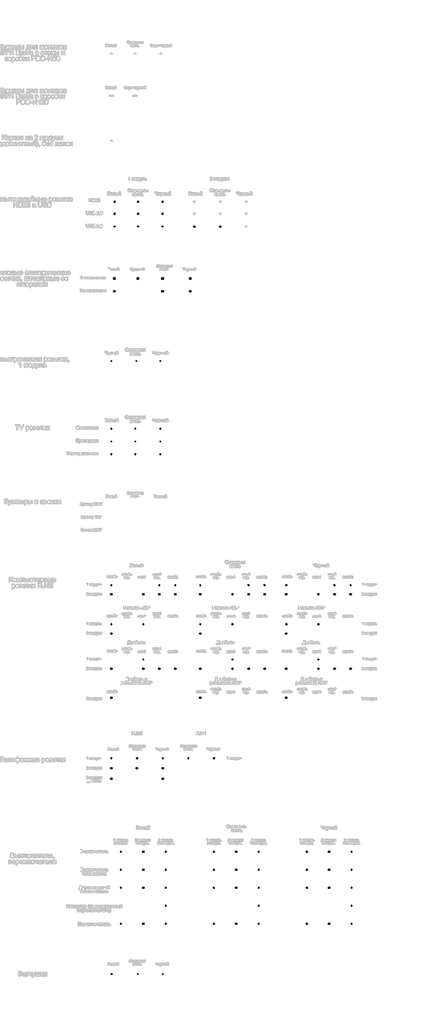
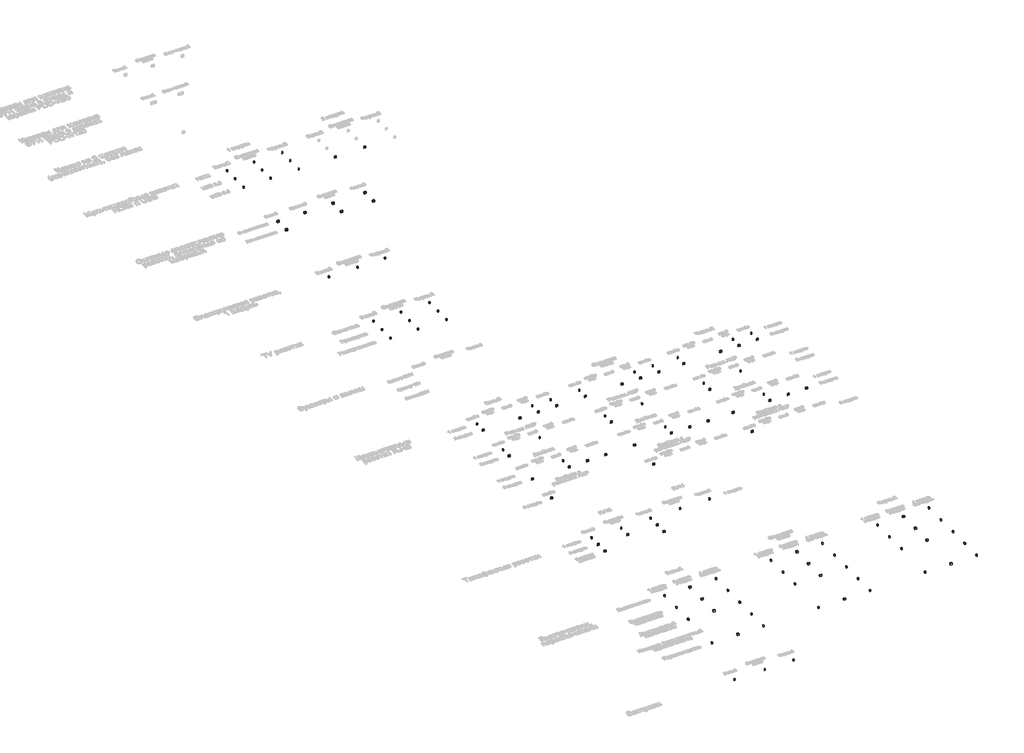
# One storey, part 1 of 47: 137 proxies.
"""IFC4 building model written with IfcOpenShell, lengths in millimetres."""

from ifc_helpers import new_model, si_unit, origin, place, context, project, spatial, transform, mapped, element, save
from components import electrical_fixtures_41765ffb, electrical_fixtures_07d94f85, electrical_fixtures_2199573e, electrical_fixtures_535c511b, electrical_fixtures_3449c2f8, electrical_fixtures_2429b56e, electrical_fixtures_b928ce00, electrical_fixtures_7d6bc673, electrical_fixtures_2916f9f6, electrical_fixtures_e52c2d28, electrical_fixtures_a180ba35, electrical_fixtures_b6375de4, electrical_fixtures_a915245d, electrical_fixtures_a3301764, electrical_fixtures_17163a05, electrical_fixtures_f2173361, electrical_fixtures_bf38bc20, hdmi_7d67e353, hdmi_d8834771, hdmi_63f187ea, hdmi_5f817c11

model = new_model("IFC4")

# Units and contexts
model_context = context("Model", 3, world=origin())
ifc_project = project(units=[si_unit("LENGTHUNIT", "METRE", prefix="MILLI")], contexts=[model_context])

# Site, building, storey
site = spatial("IfcSite", under=ifc_project)
building = spatial("IfcBuilding", under=site)
storey = spatial("IfcBuildingStorey", under=building, Name="Этаж 01", Elevation=0.0)

# Proxies
placement = place(None, origin())
electrical_fixtures_shape = electrical_fixtures_41765ffb(model_context)
element("IfcBuildingElementProxy", 1, Name="Суппорт для монтажа ЭУИ серии Viva на DIN-рейку или монтажную плату_DKC : 2 модуля", ObjectType="Суппорт для монтажа ЭУИ серии Viva на DIN-рейку или монтажную плату_DKC : 2 модуля", at=placement, inside=storey, context=model_context, shape_type="MappedRepresentation", body=[
    mapped(electrical_fixtures_shape, transform((105.2936333, -11163.5235281, 0.0), x_axis=(1.0, 0.0, 0.0), y_axis=(0.0, 1.0, 0.0), z_axis=(0.0, 0.0, 1.0))),
])
element("IfcBuildingElementProxy", 2, Name="Суппорт для монтажа ЭУИ серии Viva на DIN-рейку или монтажную плату_DKC : 2 модуля", ObjectType="Суппорт для монтажа ЭУИ серии Viva на DIN-рейку или монтажную плату_DKC : 2 модуля", at=placement, inside=storey, context=model_context, shape_type="MappedRepresentation", body=[
    mapped(electrical_fixtures_shape, transform((1605.2936333, -11163.5235281, 0.0), x_axis=(1.0, 0.0, 0.0), y_axis=(0.0, 1.0, 0.0), z_axis=(0.0, 0.0, 1.0))),
])
element("IfcBuildingElementProxy", 3, Name="Суппорт для монтажа ЭУИ серии Viva на DIN-рейку или монтажную плату_DKC : 2 модуля", ObjectType="Суппорт для монтажа ЭУИ серии Viva на DIN-рейку или монтажную плату_DKC : 2 модуля", at=placement, inside=storey, context=model_context, shape_type="MappedRepresentation", body=[
    mapped(electrical_fixtures_shape, transform((2471.3531491, -11163.5235281, 0.0), x_axis=(1.0, 0.0, 0.0), y_axis=(0.0, 1.0, 0.0), z_axis=(0.0, 0.0, 1.0))),
])
element("IfcBuildingElementProxy", 4, Name="Суппорт для монтажа ЭУИ серии Viva на DIN-рейку или монтажную плату_DKC : 2 модуля", ObjectType="Суппорт для монтажа ЭУИ серии Viva на DIN-рейку или монтажную плату_DKC : 2 модуля", at=placement, inside=storey, context=model_context, shape_type="MappedRepresentation", body=[
    mapped(electrical_fixtures_shape, transform((105.2936333, -10769.4787208, 0.0), x_axis=(1.0, 0.0, 0.0), y_axis=(0.0, 1.0, 0.0), z_axis=(0.0, 0.0, 1.0))),
])
element("IfcBuildingElementProxy", 5, Name="Суппорт для монтажа ЭУИ серии Viva на DIN-рейку или монтажную плату_DKC : 2 модуля", ObjectType="Суппорт для монтажа ЭУИ серии Viva на DIN-рейку или монтажную плату_DKC : 2 модуля", at=placement, inside=storey, context=model_context, shape_type="MappedRepresentation", body=[
    mapped(electrical_fixtures_shape, transform((837.715449, -10769.4787208, 0.0), x_axis=(1.0, 0.0, 0.0), y_axis=(0.0, 1.0, 0.0), z_axis=(0.0, 0.0, 1.0))),
])
element("IfcBuildingElementProxy", 6, Name="Суппорт для монтажа ЭУИ серии Viva на DIN-рейку или монтажную плату_DKC : 2 модуля", ObjectType="Суппорт для монтажа ЭУИ серии Viva на DIN-рейку или монтажную плату_DKC : 2 модуля", at=placement, inside=storey, context=model_context, shape_type="MappedRepresentation", body=[
    mapped(electrical_fixtures_shape, transform((1605.2936333, -10769.4787208, 0.0), x_axis=(1.0, 0.0, 0.0), y_axis=(0.0, 1.0, 0.0), z_axis=(0.0, 0.0, 1.0))),
])
element("IfcBuildingElementProxy", 7, Name="Суппорт для монтажа ЭУИ серии Viva на DIN-рейку или монтажную плату_DKC : 2 модуля", ObjectType="Суппорт для монтажа ЭУИ серии Viva на DIN-рейку или монтажную плату_DKC : 2 модуля", at=placement, inside=storey, context=model_context, shape_type="MappedRepresentation", body=[
    mapped(electrical_fixtures_shape, transform((2471.3531491, -10769.4787208, 0.0), x_axis=(1.0, 0.0, 0.0), y_axis=(0.0, 1.0, 0.0), z_axis=(0.0, 0.0, 1.0))),
])
electrical_fixtures_2_shape = electrical_fixtures_07d94f85(model_context)
element("IfcBuildingElementProxy", 8, Name="КНС_ТелефонныеРозетки_DKC : Белый", ObjectType="КНС_ТелефонныеРозетки_DKC : Белый", at=placement, inside=storey, context=model_context, shape_type="MappedRepresentation", body=[
    mapped(electrical_fixtures_2_shape, transform((5.2936333, -26336.5530466, 0.0), x_axis=(1.0, 0.0, 0.0), y_axis=(0.0, 1.0, 0.0), z_axis=(0.0, 0.0, 1.0))),
])
electrical_fixtures_3_shape = electrical_fixtures_2199573e(model_context)
element("IfcBuildingElementProxy", 9, Name="КНС_ВыключателиПереключатели_DKC : Выключатель", ObjectType="КНС_ВыключателиПереключатели_DKC : Выключатель", at=placement, inside=storey, context=model_context, shape_type="MappedRepresentation", body=[
    mapped(electrical_fixtures_3_shape, transform((305.2936333, -28614.1900259, 0.0), x_axis=(1.0, 0.0, 0.0), y_axis=(0.0, 1.0, 0.0), z_axis=(0.0, 0.0, 1.0))),
])
element("IfcBuildingElementProxy", 10, Name="КНС_ВыключателиПереключатели_DKC : Переключатель", ObjectType="КНС_ВыключателиПереключатели_DKC : Переключатель", at=placement, inside=storey, context=model_context, shape_type="MappedRepresentation", body=[
    mapped(electrical_fixtures_3_shape, transform((305.2936333, -30854.1900259, 0.0), x_axis=(1.0, 0.0, 0.0), y_axis=(0.0, 1.0, 0.0), z_axis=(0.0, 0.0, 1.0))),
])
electrical_fixtures_4_shape = electrical_fixtures_535c511b(model_context)
element("IfcBuildingElementProxy", 11, Name="КНС_ВыключателиПереключатели_DKC : Выключатель типа кнопка", ObjectType="КНС_ВыключателиПереключатели_DKC : Выключатель типа кнопка", at=placement, inside=storey, context=model_context, shape_type="MappedRepresentation", body=[
    mapped(electrical_fixtures_4_shape, transform((1005.2936333, -29174.1900259, 0.0), x_axis=(1.0, 0.0, 0.0), y_axis=(0.0, 1.0, 0.0), z_axis=(0.0, 0.0, 1.0))),
])
element("IfcBuildingElementProxy", 12, Name="КНС_ВыключателиПереключатели_DKC : Двухполюсный выключатель", ObjectType="КНС_ВыключателиПереключатели_DKC : Двухполюсный выключатель", at=placement, inside=storey, context=model_context, shape_type="MappedRepresentation", body=[
    mapped(electrical_fixtures_4_shape, transform((1005.2936333, -29734.1900259, 0.0), x_axis=(1.0, 0.0, 0.0), y_axis=(0.0, 1.0, 0.0), z_axis=(0.0, 0.0, 1.0))),
])
electrical_fixtures_5_shape = electrical_fixtures_3449c2f8(model_context)
element("IfcBuildingElementProxy", 13, Name="КНС_КомпьютерныеРозеткиRJ45_DKC : Белый", ObjectType="КНС_КомпьютерныеРозеткиRJ45_DKC : Белый", at=placement, inside=storey, context=model_context, shape_type="MappedRepresentation", body=[
    mapped(electrical_fixtures_5_shape, transform((5.2936333, -22913.1610071, 0.0), x_axis=(1.0, 0.0, 0.0), y_axis=(0.0, 1.0, 0.0), z_axis=(0.0, 0.0, 1.0))),
])
electrical_fixtures_6_shape = electrical_fixtures_2429b56e(model_context)
element("IfcBuildingElementProxy", 14, Name="КНС_КомпьютерныеРозеткиRJ45_DKC : Черный", ObjectType="КНС_КомпьютерныеРозеткиRJ45_DKC : Черный", at=placement, inside=storey, context=model_context, shape_type="MappedRepresentation", body=[
    mapped(electrical_fixtures_6_shape, transform((5466.2936333, -20593.1610071, 0.0), x_axis=(1.0, 0.0, 0.0), y_axis=(0.0, 1.0, 0.0), z_axis=(0.0, 0.0, 1.0))),
])
element("IfcBuildingElementProxy", 15, Name="КНС_КомпьютерныеРозеткиRJ45_DKC : Слоновая кость", ObjectType="КНС_КомпьютерныеРозеткиRJ45_DKC : Слоновая кость", at=placement, inside=storey, context=model_context, shape_type="MappedRepresentation", body=[
    mapped(electrical_fixtures_6_shape, transform((2785.2936333, -20593.1610071, 0.0), x_axis=(1.0, 0.0, 0.0), y_axis=(0.0, 1.0, 0.0), z_axis=(0.0, 0.0, 1.0))),
])
electrical_fixtures_7_shape = electrical_fixtures_b928ce00(model_context)
element("IfcBuildingElementProxy", 16, Name="КНС_TVРозетка_DKC : Белый", ObjectType="КНС_TVРозетка_DKC : Белый", at=placement, inside=storey, context=model_context, shape_type="MappedRepresentation", body=[
    mapped(electrical_fixtures_7_shape, transform((5.2936333, -15426.9680501, 0.0), x_axis=(1.0, 0.0, 0.0), y_axis=(0.0, 1.0, 0.0), z_axis=(0.0, 0.0, 1.0))),
])
electrical_fixtures_8_shape = electrical_fixtures_7d6bc673(model_context)
element("IfcBuildingElementProxy", 17, Name="КНС_TVРозетка_DKC : Черный", ObjectType="КНС_TVРозетка_DKC : Черный", at=placement, inside=storey, context=model_context, shape_type="MappedRepresentation", body=[
    mapped(electrical_fixtures_8_shape, transform((1531.1397887, -15828.8387606, 0.0), x_axis=(1.0, 0.0, 0.0), y_axis=(0.0, 1.0, 0.0), z_axis=(0.0, 0.0, 1.0))),
])
electrical_fixtures_9_shape = electrical_fixtures_2916f9f6(model_context)
element("IfcBuildingElementProxy", 18, Name="КНС_ЭлектрическаяРозетка1Модуль_DKC : Белый", ObjectType="КНС_ЭлектрическаяРозетка1Модуль_DKC : Белый", at=placement, inside=storey, context=model_context, shape_type="MappedRepresentation", body=[
    mapped(electrical_fixtures_9_shape, transform((5.2936333, -13321.7098497, 0.0), x_axis=(1.0, 0.0, 0.0), y_axis=(0.0, 1.0, 0.0), z_axis=(0.0, 0.0, 1.0))),
])
element("IfcBuildingElementProxy", 19, Name="КНС_ЭлектрическаяРозетка1Модуль_DKC : Черный", ObjectType="КНС_ЭлектрическаяРозетка1Модуль_DKC : Черный", at=placement, inside=storey, context=model_context, shape_type="MappedRepresentation", body=[
    mapped(electrical_fixtures_9_shape, transform((1534.0645869, -13321.7098497, 0.0), x_axis=(1.0, 0.0, 0.0), y_axis=(0.0, 1.0, 0.0), z_axis=(0.0, 0.0, 1.0))),
])
element("IfcBuildingElementProxy", 20, Name="КНС_ЭлектрическаяРозетка1Модуль_DKC : Слоновая кость", ObjectType="КНС_ЭлектрическаяРозетка1Модуль_DKC : Слоновая кость", at=placement, inside=storey, context=model_context, shape_type="MappedRepresentation", body=[
    mapped(electrical_fixtures_9_shape, transform((785.2936333, -13321.7098497, 0.0), x_axis=(1.0, 0.0, 0.0), y_axis=(0.0, 1.0, 0.0), z_axis=(0.0, 0.0, 1.0))),
])
electrical_fixtures_10_shape = electrical_fixtures_e52c2d28(model_context)
element("IfcBuildingElementProxy", 21, Name="КНС_СиловыеЭлектрическиеРозеткиШтекерныеСоШторками_DKC : Белый", ObjectType="КНС_СиловыеЭлектрическиеРозеткиШтекерныеСоШторками_DKC : Белый", at=placement, inside=storey, context=model_context, shape_type="MappedRepresentation", body=[
    mapped(electrical_fixtures_10_shape, transform((105.2936333, -10745.1787208, 0.0), x_axis=(1.0, 0.0, 0.0), y_axis=(0.0, 1.0, 0.0), z_axis=(0.0, 0.0, 1.0))),
])
element("IfcBuildingElementProxy", 22, Name="КНС_СиловыеЭлектрическиеРозеткиШтекерныеСоШторками_DKC : Красный", ObjectType="КНС_СиловыеЭлектрическиеРозеткиШтекерныеСоШторками_DKC : Красный", at=placement, inside=storey, context=model_context, shape_type="MappedRepresentation", body=[
    mapped(electrical_fixtures_10_shape, transform((837.715449, -10745.1787208, 0.0), x_axis=(1.0, 0.0, 0.0), y_axis=(0.0, 1.0, 0.0), z_axis=(0.0, 0.0, 1.0))),
])
element("IfcBuildingElementProxy", 23, Name="КНС_СиловыеЭлектрическиеРозеткиШтекерныеСоШторками_DKC : Слоновая кость", ObjectType="КНС_СиловыеЭлектрическиеРозеткиШтекерныеСоШторками_DKC : Слоновая кость", at=placement, inside=storey, context=model_context, shape_type="MappedRepresentation", body=[
    mapped(electrical_fixtures_10_shape, transform((1605.2936333, -10745.1787208, 0.0), x_axis=(1.0, 0.0, 0.0), y_axis=(0.0, 1.0, 0.0), z_axis=(0.0, 0.0, 1.0))),
])
electrical_fixtures_11_shape = electrical_fixtures_a180ba35(model_context)
element("IfcBuildingElementProxy", 24, Name="КНС_СиловыеЭлектрическиеРозеткиШтекерныеСоШторками_DKC : Черный", ObjectType="КНС_СиловыеЭлектрическиеРозеткиШтекерныеСоШторками_DKC : Черный", at=placement, inside=storey, context=model_context, shape_type="MappedRepresentation", body=[
    mapped(electrical_fixtures_11_shape, transform((2471.3531491, -11139.2235281, 0.0), x_axis=(1.0, 0.0, 0.0), y_axis=(0.0, 1.0, 0.0), z_axis=(0.0, 0.0, 1.0))),
])
electrical_fixtures_12_shape = electrical_fixtures_b6375de4(model_context)
element("IfcBuildingElementProxy", 25, Name="КНС_ТелефонныеРозетки_DKC : Черный", ObjectType="КНС_ТелефонныеРозетки_DKC : Черный", at=placement, inside=storey, context=model_context, shape_type="MappedRepresentation", body=[
    mapped(electrical_fixtures_12_shape, transform((1608.3657569, -26016.5530466, 0.0), x_axis=(1.0, 0.0, 0.0), y_axis=(0.0, 1.0, 0.0), z_axis=(0.0, 0.0, 1.0))),
])
element("IfcBuildingElementProxy", 26, Name="КНС_ТелефонныеРозетки_DKC : Слоновая кость", ObjectType="КНС_ТелефонныеРозетки_DKC : Слоновая кость", at=placement, inside=storey, context=model_context, shape_type="MappedRepresentation", body=[
    mapped(electrical_fixtures_12_shape, transform((808.3657569, -26016.5530466, 0.0), x_axis=(1.0, 0.0, 0.0), y_axis=(0.0, 1.0, 0.0), z_axis=(0.0, 0.0, 1.0))),
])
electrical_fixtures_13_shape = electrical_fixtures_a915245d(model_context)
element("IfcBuildingElementProxy", 27, Name="КНС_Заглушки_DKC : Заглушки_DKC", ObjectType="КНС_Заглушки_DKC : Заглушки_DKC", at=placement, inside=storey, context=model_context, shape_type="MappedRepresentation", body=[
    mapped(electrical_fixtures_13_shape, transform((13.6266964, -32429.558773, 0.0), x_axis=(1.0, 0.0, 0.0), y_axis=(0.0, 1.0, 0.0), z_axis=(0.0, 0.0, 1.0))),
])
element("IfcBuildingElementProxy", 28, Name="КНС_ВыключателиПереключатели_DKC : Выключатель", ObjectType="КНС_ВыключателиПереключатели_DKC : Выключатель", at=placement, inside=storey, context=model_context, shape_type="MappedRepresentation", body=[
    mapped(electrical_fixtures_4_shape, transform((1005.2936333, -28614.1900259, 0.0), x_axis=(1.0, 0.0, 0.0), y_axis=(0.0, 1.0, 0.0), z_axis=(0.0, 0.0, 1.0))),
])
element("IfcBuildingElementProxy", 29, Name="КНС_ВыключателиПереключатели_DKC : Выключатель", ObjectType="КНС_ВыключателиПереключатели_DKC : Выключатель", at=placement, inside=storey, context=model_context, shape_type="MappedRepresentation", body=[
    mapped(electrical_fixtures_3_shape, transform((1705.2936333, -28614.1900259, 0.0), x_axis=(1.0, 0.0, 0.0), y_axis=(0.0, 1.0, 0.0), z_axis=(0.0, 0.0, 1.0))),
])
element("IfcBuildingElementProxy", 30, Name="КНС_ВыключателиПереключатели_DKC : Выключатель", ObjectType="КНС_ВыключателиПереключатели_DKC : Выключатель", at=placement, inside=storey, context=model_context, shape_type="MappedRepresentation", body=[
    mapped(electrical_fixtures_3_shape, transform((3205.2936333, -28614.1900259, 0.0), x_axis=(1.0, 0.0, 0.0), y_axis=(0.0, 1.0, 0.0), z_axis=(0.0, 0.0, 1.0))),
])
element("IfcBuildingElementProxy", 31, Name="КНС_ВыключателиПереключатели_DKC : Выключатель", ObjectType="КНС_ВыключателиПереключатели_DKC : Выключатель", at=placement, inside=storey, context=model_context, shape_type="MappedRepresentation", body=[
    mapped(electrical_fixtures_4_shape, transform((3905.2936333, -28614.1900259, 0.0), x_axis=(1.0, 0.0, 0.0), y_axis=(0.0, 1.0, 0.0), z_axis=(0.0, 0.0, 1.0))),
])
element("IfcBuildingElementProxy", 32, Name="КНС_ВыключателиПереключатели_DKC : Выключатель", ObjectType="КНС_ВыключателиПереключатели_DKC : Выключатель", at=placement, inside=storey, context=model_context, shape_type="MappedRepresentation", body=[
    mapped(electrical_fixtures_3_shape, transform((4605.2936333, -28614.1900259, 0.0), x_axis=(1.0, 0.0, 0.0), y_axis=(0.0, 1.0, 0.0), z_axis=(0.0, 0.0, 1.0))),
])
electrical_fixtures_14_shape = electrical_fixtures_a3301764(model_context)
element("IfcBuildingElementProxy", 33, Name="КНС_ВыключателиПереключатели_DKC : Выключатель", ObjectType="КНС_ВыключателиПереключатели_DKC : Выключатель", at=placement, inside=storey, context=model_context, shape_type="MappedRepresentation", body=[
    mapped(electrical_fixtures_14_shape, transform((6105.2936333, -28614.1900259, 0.0), x_axis=(1.0, 0.0, 0.0), y_axis=(0.0, 1.0, 0.0), z_axis=(0.0, 0.0, 1.0))),
])
electrical_fixtures_15_shape = electrical_fixtures_17163a05(model_context)
element("IfcBuildingElementProxy", 34, Name="КНС_ВыключателиПереключатели_DKC : Выключатель", ObjectType="КНС_ВыключателиПереключатели_DKC : Выключатель", at=placement, inside=storey, context=model_context, shape_type="MappedRepresentation", body=[
    mapped(electrical_fixtures_15_shape, transform((6805.2936333, -28614.1900259, 0.0), x_axis=(1.0, 0.0, 0.0), y_axis=(0.0, 1.0, 0.0), z_axis=(0.0, 0.0, 1.0))),
])
element("IfcBuildingElementProxy", 35, Name="КНС_ВыключателиПереключатели_DKC : Выключатель", ObjectType="КНС_ВыключателиПереключатели_DKC : Выключатель", at=placement, inside=storey, context=model_context, shape_type="MappedRepresentation", body=[
    mapped(electrical_fixtures_14_shape, transform((7505.2936333, -28614.1900259, 0.0), x_axis=(1.0, 0.0, 0.0), y_axis=(0.0, 1.0, 0.0), z_axis=(0.0, 0.0, 1.0))),
])
element("IfcBuildingElementProxy", 36, Name="КНС_ВыключателиПереключатели_DKC : Выключатель типа кнопка", ObjectType="КНС_ВыключателиПереключатели_DKC : Выключатель типа кнопка", at=placement, inside=storey, context=model_context, shape_type="MappedRepresentation", body=[
    mapped(electrical_fixtures_3_shape, transform((305.2936333, -29174.1900259, 0.0), x_axis=(1.0, 0.0, 0.0), y_axis=(0.0, 1.0, 0.0), z_axis=(0.0, 0.0, 1.0))),
])
element("IfcBuildingElementProxy", 37, Name="КНС_ВыключателиПереключатели_DKC : Выключатель типа кнопка", ObjectType="КНС_ВыключателиПереключатели_DKC : Выключатель типа кнопка", at=placement, inside=storey, context=model_context, shape_type="MappedRepresentation", body=[
    mapped(electrical_fixtures_3_shape, transform((1705.2936333, -29174.1900259, 0.0), x_axis=(1.0, 0.0, 0.0), y_axis=(0.0, 1.0, 0.0), z_axis=(0.0, 0.0, 1.0))),
])
element("IfcBuildingElementProxy", 38, Name="КНС_ВыключателиПереключатели_DKC : Выключатель типа кнопка", ObjectType="КНС_ВыключателиПереключатели_DKC : Выключатель типа кнопка", at=placement, inside=storey, context=model_context, shape_type="MappedRepresentation", body=[
    mapped(electrical_fixtures_3_shape, transform((3205.2936333, -29174.1900259, 0.0), x_axis=(1.0, 0.0, 0.0), y_axis=(0.0, 1.0, 0.0), z_axis=(0.0, 0.0, 1.0))),
])
element("IfcBuildingElementProxy", 39, Name="КНС_ВыключателиПереключатели_DKC : Выключатель типа кнопка", ObjectType="КНС_ВыключателиПереключатели_DKC : Выключатель типа кнопка", at=placement, inside=storey, context=model_context, shape_type="MappedRepresentation", body=[
    mapped(electrical_fixtures_4_shape, transform((3905.2936333, -29174.1900259, 0.0), x_axis=(1.0, 0.0, 0.0), y_axis=(0.0, 1.0, 0.0), z_axis=(0.0, 0.0, 1.0))),
])
element("IfcBuildingElementProxy", 40, Name="КНС_ВыключателиПереключатели_DKC : Выключатель типа кнопка", ObjectType="КНС_ВыключателиПереключатели_DKC : Выключатель типа кнопка", at=placement, inside=storey, context=model_context, shape_type="MappedRepresentation", body=[
    mapped(electrical_fixtures_3_shape, transform((4605.2936333, -29174.1900259, 0.0), x_axis=(1.0, 0.0, 0.0), y_axis=(0.0, 1.0, 0.0), z_axis=(0.0, 0.0, 1.0))),
])
element("IfcBuildingElementProxy", 41, Name="КНС_ВыключателиПереключатели_DKC : Выключатель типа кнопка", ObjectType="КНС_ВыключателиПереключатели_DKC : Выключатель типа кнопка", at=placement, inside=storey, context=model_context, shape_type="MappedRepresentation", body=[
    mapped(electrical_fixtures_14_shape, transform((6105.2936333, -29174.1900259, 0.0), x_axis=(1.0, 0.0, 0.0), y_axis=(0.0, 1.0, 0.0), z_axis=(0.0, 0.0, 1.0))),
])
element("IfcBuildingElementProxy", 42, Name="КНС_ВыключателиПереключатели_DKC : Выключатель типа кнопка", ObjectType="КНС_ВыключателиПереключатели_DKC : Выключатель типа кнопка", at=placement, inside=storey, context=model_context, shape_type="MappedRepresentation", body=[
    mapped(electrical_fixtures_15_shape, transform((6805.2936333, -29174.1900259, 0.0), x_axis=(1.0, 0.0, 0.0), y_axis=(0.0, 1.0, 0.0), z_axis=(0.0, 0.0, 1.0))),
])
element("IfcBuildingElementProxy", 43, Name="КНС_ВыключателиПереключатели_DKC : Выключатель типа кнопка", ObjectType="КНС_ВыключателиПереключатели_DKC : Выключатель типа кнопка", at=placement, inside=storey, context=model_context, shape_type="MappedRepresentation", body=[
    mapped(electrical_fixtures_14_shape, transform((7505.2936333, -29174.1900259, 0.0), x_axis=(1.0, 0.0, 0.0), y_axis=(0.0, 1.0, 0.0), z_axis=(0.0, 0.0, 1.0))),
])
element("IfcBuildingElementProxy", 44, Name="КНС_ВыключателиПереключатели_DKC : Двухполюсный выключатель", ObjectType="КНС_ВыключателиПереключатели_DKC : Двухполюсный выключатель", at=placement, inside=storey, context=model_context, shape_type="MappedRepresentation", body=[
    mapped(electrical_fixtures_3_shape, transform((305.2936333, -29734.1900259, 0.0), x_axis=(1.0, 0.0, 0.0), y_axis=(0.0, 1.0, 0.0), z_axis=(0.0, 0.0, 1.0))),
])
element("IfcBuildingElementProxy", 45, Name="КНС_ВыключателиПереключатели_DKC : Двухполюсный выключатель", ObjectType="КНС_ВыключателиПереключатели_DKC : Двухполюсный выключатель", at=placement, inside=storey, context=model_context, shape_type="MappedRepresentation", body=[
    mapped(electrical_fixtures_3_shape, transform((1705.2936333, -29734.1900259, 0.0), x_axis=(1.0, 0.0, 0.0), y_axis=(0.0, 1.0, 0.0), z_axis=(0.0, 0.0, 1.0))),
])
element("IfcBuildingElementProxy", 46, Name="КНС_ВыключателиПереключатели_DKC : Двухполюсный выключатель", ObjectType="КНС_ВыключателиПереключатели_DKC : Двухполюсный выключатель", at=placement, inside=storey, context=model_context, shape_type="MappedRepresentation", body=[
    mapped(electrical_fixtures_3_shape, transform((3205.2936333, -29734.1900259, 0.0), x_axis=(1.0, 0.0, 0.0), y_axis=(0.0, 1.0, 0.0), z_axis=(0.0, 0.0, 1.0))),
])
element("IfcBuildingElementProxy", 47, Name="КНС_ВыключателиПереключатели_DKC : Двухполюсный выключатель", ObjectType="КНС_ВыключателиПереключатели_DKC : Двухполюсный выключатель", at=placement, inside=storey, context=model_context, shape_type="MappedRepresentation", body=[
    mapped(electrical_fixtures_4_shape, transform((3905.2936333, -29734.1900259, 0.0), x_axis=(1.0, 0.0, 0.0), y_axis=(0.0, 1.0, 0.0), z_axis=(0.0, 0.0, 1.0))),
])
element("IfcBuildingElementProxy", 48, Name="КНС_ВыключателиПереключатели_DKC : Двухполюсный выключатель", ObjectType="КНС_ВыключателиПереключатели_DKC : Двухполюсный выключатель", at=placement, inside=storey, context=model_context, shape_type="MappedRepresentation", body=[
    mapped(electrical_fixtures_3_shape, transform((4605.2936333, -29734.1900259, 0.0), x_axis=(1.0, 0.0, 0.0), y_axis=(0.0, 1.0, 0.0), z_axis=(0.0, 0.0, 1.0))),
])
element("IfcBuildingElementProxy", 49, Name="КНС_ВыключателиПереключатели_DKC : Двухполюсный выключатель", ObjectType="КНС_ВыключателиПереключатели_DKC : Двухполюсный выключатель", at=placement, inside=storey, context=model_context, shape_type="MappedRepresentation", body=[
    mapped(electrical_fixtures_14_shape, transform((6105.2936333, -29734.1900259, 0.0), x_axis=(1.0, 0.0, 0.0), y_axis=(0.0, 1.0, 0.0), z_axis=(0.0, 0.0, 1.0))),
])
element("IfcBuildingElementProxy", 50, Name="КНС_ВыключателиПереключатели_DKC : Двухполюсный выключатель", ObjectType="КНС_ВыключателиПереключатели_DKC : Двухполюсный выключатель", at=placement, inside=storey, context=model_context, shape_type="MappedRepresentation", body=[
    mapped(electrical_fixtures_15_shape, transform((6805.2936333, -29734.1900259, 0.0), x_axis=(1.0, 0.0, 0.0), y_axis=(0.0, 1.0, 0.0), z_axis=(0.0, 0.0, 1.0))),
])
element("IfcBuildingElementProxy", 51, Name="КНС_ВыключателиПереключатели_DKC : Инвертор (промежуточный переключатель)", ObjectType="КНС_ВыключателиПереключатели_DKC : Инвертор (промежуточный переключатель)", at=placement, inside=storey, context=model_context, shape_type="MappedRepresentation", body=[
    mapped(electrical_fixtures_3_shape, transform((1705.2936333, -30294.1900259, 0.0), x_axis=(1.0, 0.0, 0.0), y_axis=(0.0, 1.0, 0.0), z_axis=(0.0, 0.0, 1.0))),
])
element("IfcBuildingElementProxy", 52, Name="КНС_ВыключателиПереключатели_DKC : Инвертор (промежуточный переключатель)", ObjectType="КНС_ВыключателиПереключатели_DKC : Инвертор (промежуточный переключатель)", at=placement, inside=storey, context=model_context, shape_type="MappedRepresentation", body=[
    mapped(electrical_fixtures_3_shape, transform((4605.2936333, -30294.1900259, 0.0), x_axis=(1.0, 0.0, 0.0), y_axis=(0.0, 1.0, 0.0), z_axis=(0.0, 0.0, 1.0))),
])
element("IfcBuildingElementProxy", 53, Name="КНС_ВыключателиПереключатели_DKC : Инвертор (промежуточный переключатель)", ObjectType="КНС_ВыключателиПереключатели_DKC : Инвертор (промежуточный переключатель)", at=placement, inside=storey, context=model_context, shape_type="MappedRepresentation", body=[
    mapped(electrical_fixtures_14_shape, transform((7505.2936333, -30294.1900259, 0.0), x_axis=(1.0, 0.0, 0.0), y_axis=(0.0, 1.0, 0.0), z_axis=(0.0, 0.0, 1.0))),
])
element("IfcBuildingElementProxy", 54, Name="КНС_ВыключателиПереключатели_DKC : Переключатель", ObjectType="КНС_ВыключателиПереключатели_DKC : Переключатель", at=placement, inside=storey, context=model_context, shape_type="MappedRepresentation", body=[
    mapped(electrical_fixtures_4_shape, transform((1005.2936333, -30854.1900259, 0.0), x_axis=(1.0, 0.0, 0.0), y_axis=(0.0, 1.0, 0.0), z_axis=(0.0, 0.0, 1.0))),
])
element("IfcBuildingElementProxy", 55, Name="КНС_ВыключателиПереключатели_DKC : Переключатель", ObjectType="КНС_ВыключателиПереключатели_DKC : Переключатель", at=placement, inside=storey, context=model_context, shape_type="MappedRepresentation", body=[
    mapped(electrical_fixtures_3_shape, transform((1705.2936333, -30854.1900259, 0.0), x_axis=(1.0, 0.0, 0.0), y_axis=(0.0, 1.0, 0.0), z_axis=(0.0, 0.0, 1.0))),
])
element("IfcBuildingElementProxy", 56, Name="КНС_ВыключателиПереключатели_DKC : Переключатель", ObjectType="КНС_ВыключателиПереключатели_DKC : Переключатель", at=placement, inside=storey, context=model_context, shape_type="MappedRepresentation", body=[
    mapped(electrical_fixtures_3_shape, transform((3205.2936333, -30854.1900259, 0.0), x_axis=(1.0, 0.0, 0.0), y_axis=(0.0, 1.0, 0.0), z_axis=(0.0, 0.0, 1.0))),
])
element("IfcBuildingElementProxy", 57, Name="КНС_ВыключателиПереключатели_DKC : Переключатель", ObjectType="КНС_ВыключателиПереключатели_DKC : Переключатель", at=placement, inside=storey, context=model_context, shape_type="MappedRepresentation", body=[
    mapped(electrical_fixtures_4_shape, transform((3905.2936333, -30854.1900259, 0.0), x_axis=(1.0, 0.0, 0.0), y_axis=(0.0, 1.0, 0.0), z_axis=(0.0, 0.0, 1.0))),
])
element("IfcBuildingElementProxy", 58, Name="КНС_ВыключателиПереключатели_DKC : Переключатель", ObjectType="КНС_ВыключателиПереключатели_DKC : Переключатель", at=placement, inside=storey, context=model_context, shape_type="MappedRepresentation", body=[
    mapped(electrical_fixtures_3_shape, transform((4605.2936333, -30854.1900259, 0.0), x_axis=(1.0, 0.0, 0.0), y_axis=(0.0, 1.0, 0.0), z_axis=(0.0, 0.0, 1.0))),
])
element("IfcBuildingElementProxy", 59, Name="КНС_ВыключателиПереключатели_DKC : Переключатель", ObjectType="КНС_ВыключателиПереключатели_DKC : Переключатель", at=placement, inside=storey, context=model_context, shape_type="MappedRepresentation", body=[
    mapped(electrical_fixtures_14_shape, transform((6105.2936333, -30854.1900259, 0.0), x_axis=(1.0, 0.0, 0.0), y_axis=(0.0, 1.0, 0.0), z_axis=(0.0, 0.0, 1.0))),
])
element("IfcBuildingElementProxy", 60, Name="КНС_ВыключателиПереключатели_DKC : Переключатель", ObjectType="КНС_ВыключателиПереключатели_DKC : Переключатель", at=placement, inside=storey, context=model_context, shape_type="MappedRepresentation", body=[
    mapped(electrical_fixtures_15_shape, transform((6805.2936333, -30854.1900259, 0.0), x_axis=(1.0, 0.0, 0.0), y_axis=(0.0, 1.0, 0.0), z_axis=(0.0, 0.0, 1.0))),
])
element("IfcBuildingElementProxy", 61, Name="КНС_ВыключателиПереключатели_DKC : Переключатель", ObjectType="КНС_ВыключателиПереключатели_DKC : Переключатель", at=placement, inside=storey, context=model_context, shape_type="MappedRepresentation", body=[
    mapped(electrical_fixtures_14_shape, transform((7505.2936333, -30854.1900259, 0.0), x_axis=(1.0, 0.0, 0.0), y_axis=(0.0, 1.0, 0.0), z_axis=(0.0, 0.0, 1.0))),
])
element("IfcBuildingElementProxy", 62, Name="КНС_ВыключателиПереключатели_DKC : Двухполюсный выключатель", ObjectType="КНС_ВыключателиПереключатели_DKC : Двухполюсный выключатель", at=placement, inside=storey, context=model_context, shape_type="MappedRepresentation", body=[
    mapped(electrical_fixtures_14_shape, transform((7505.2936333, -29734.1900259, 0.0), x_axis=(1.0, 0.0, 0.0), y_axis=(0.0, 1.0, 0.0), z_axis=(0.0, 0.0, 1.0))),
])
electrical_fixtures_16_shape = electrical_fixtures_f2173361(model_context)
element("IfcBuildingElementProxy", 63, Name="КНС_КомпьютерныеРозеткиRJ45_DKC : Белый", ObjectType="КНС_КомпьютерныеРозеткиRJ45_DKC : Белый", at=placement, inside=storey, context=model_context, shape_type="MappedRepresentation", body=[
    mapped(electrical_fixtures_16_shape, transform((5.2936333, -21526.1407154, 0.0), x_axis=(1.0, 0.0, 0.0), y_axis=(0.0, 1.0, 0.0), z_axis=(0.0, 0.0, 1.0))),
])
element("IfcBuildingElementProxy", 64, Name="КНС_КомпьютерныеРозеткиRJ45_DKC : Белый", ObjectType="КНС_КомпьютерныеРозеткиRJ45_DKC : Белый", at=placement, inside=storey, context=model_context, shape_type="MappedRepresentation", body=[
    mapped(electrical_fixtures_6_shape, transform((5.2936333, -21813.1610071, 0.0), x_axis=(1.0, 0.0, 0.0), y_axis=(0.0, 1.0, 0.0), z_axis=(0.0, 0.0, 1.0))),
])
element("IfcBuildingElementProxy", 65, Name="КНС_КомпьютерныеРозеткиRJ45_DKC : Слоновая кость", ObjectType="КНС_КомпьютерныеРозеткиRJ45_DKC : Слоновая кость", at=placement, inside=storey, context=model_context, shape_type="MappedRepresentation", body=[
    mapped(electrical_fixtures_16_shape, transform((2785.2936333, -20306.1407154, 0.0), x_axis=(1.0, 0.0, 0.0), y_axis=(0.0, 1.0, 0.0), z_axis=(0.0, 0.0, 1.0))),
])
element("IfcBuildingElementProxy", 66, Name="КНС_КомпьютерныеРозеткиRJ45_DKC : Слоновая кость", ObjectType="КНС_КомпьютерныеРозеткиRJ45_DKC : Слоновая кость", at=placement, inside=storey, context=model_context, shape_type="MappedRepresentation", body=[
    mapped(electrical_fixtures_16_shape, transform((4285.2936333, -20306.1407154, 0.0), x_axis=(1.0, 0.0, 0.0), y_axis=(0.0, 1.0, 0.0), z_axis=(0.0, 0.0, 1.0))),
])
element("IfcBuildingElementProxy", 67, Name="КНС_КомпьютерныеРозеткиRJ45_DKC : Слоновая кость", ObjectType="КНС_КомпьютерныеРозеткиRJ45_DKC : Слоновая кость", at=placement, inside=storey, context=model_context, shape_type="MappedRepresentation", body=[
    mapped(electrical_fixtures_16_shape, transform((4785.2936333, -20306.1407154, 0.0), x_axis=(1.0, 0.0, 0.0), y_axis=(0.0, 1.0, 0.0), z_axis=(0.0, 0.0, 1.0))),
])
element("IfcBuildingElementProxy", 68, Name="КНС_КомпьютерныеРозеткиRJ45_DKC : Черный", ObjectType="КНС_КомпьютерныеРозеткиRJ45_DKC : Черный", at=placement, inside=storey, context=model_context, shape_type="MappedRepresentation", body=[
    mapped(electrical_fixtures_16_shape, transform((7466.2936333, -20306.1407154, 0.0), x_axis=(1.0, 0.0, 0.0), y_axis=(0.0, 1.0, 0.0), z_axis=(0.0, 0.0, 1.0))),
])
element("IfcBuildingElementProxy", 69, Name="КНС_КомпьютерныеРозеткиRJ45_DKC : Черный", ObjectType="КНС_КомпьютерныеРозеткиRJ45_DKC : Черный", at=placement, inside=storey, context=model_context, shape_type="MappedRepresentation", body=[
    mapped(electrical_fixtures_6_shape, transform((7466.2936333, -20593.1610071, 0.0), x_axis=(1.0, 0.0, 0.0), y_axis=(0.0, 1.0, 0.0), z_axis=(0.0, 0.0, 1.0))),
])
element("IfcBuildingElementProxy", 70, Name="КНС_КомпьютерныеРозеткиRJ45_DKC : Черный", ObjectType="КНС_КомпьютерныеРозеткиRJ45_DKC : Черный", at=placement, inside=storey, context=model_context, shape_type="MappedRepresentation", body=[
    mapped(electrical_fixtures_5_shape, transform((7466.2936333, -22913.1610071, 0.0), x_axis=(1.0, 0.0, 0.0), y_axis=(0.0, 1.0, 0.0), z_axis=(0.0, 0.0, 1.0))),
])
element("IfcBuildingElementProxy", 71, Name="КНС_КомпьютерныеРозеткиRJ45_DKC : Белый", ObjectType="КНС_КомпьютерныеРозеткиRJ45_DKC : Белый", at=placement, inside=storey, context=model_context, shape_type="MappedRepresentation", body=[
    mapped(electrical_fixtures_16_shape, transform((5.2936333, -20306.1407154, 0.0), x_axis=(1.0, 0.0, 0.0), y_axis=(0.0, 1.0, 0.0), z_axis=(0.0, 0.0, 1.0))),
])
element("IfcBuildingElementProxy", 72, Name="КНС_КомпьютерныеРозеткиRJ45_DKC : Белый", ObjectType="КНС_КомпьютерныеРозеткиRJ45_DKC : Белый", at=placement, inside=storey, context=model_context, shape_type="MappedRepresentation", body=[
    mapped(electrical_fixtures_6_shape, transform((5.2936333, -20593.1610071, 0.0), x_axis=(1.0, 0.0, 0.0), y_axis=(0.0, 1.0, 0.0), z_axis=(0.0, 0.0, 1.0))),
])
element("IfcBuildingElementProxy", 73, Name="КНС_КомпьютерныеРозеткиRJ45_DKC : Белый", ObjectType="КНС_КомпьютерныеРозеткиRJ45_DKC : Белый", at=placement, inside=storey, context=model_context, shape_type="MappedRepresentation", body=[
    mapped(electrical_fixtures_5_shape, transform((5.2936333, -23813.1610071, 0.0), x_axis=(1.0, 0.0, 0.0), y_axis=(0.0, 1.0, 0.0), z_axis=(0.0, 0.0, 1.0))),
])
element("IfcBuildingElementProxy", 74, Name="КНС_КомпьютерныеРозеткиRJ45_DKC : Белый", ObjectType="КНС_КомпьютерныеРозеткиRJ45_DKC : Белый", at=placement, inside=storey, context=model_context, shape_type="MappedRepresentation", body=[
    mapped(electrical_fixtures_6_shape, transform((1005.2936333, -20593.1610071, 0.0), x_axis=(1.0, 0.0, 0.0), y_axis=(0.0, 1.0, 0.0), z_axis=(0.0, 0.0, 1.0))),
])
element("IfcBuildingElementProxy", 75, Name="КНС_КомпьютерныеРозеткиRJ45_DKC : Белый", ObjectType="КНС_КомпьютерныеРозеткиRJ45_DKC : Белый", at=placement, inside=storey, context=model_context, shape_type="MappedRepresentation", body=[
    mapped(electrical_fixtures_16_shape, transform((1005.2936333, -21526.1407154, 0.0), x_axis=(1.0, 0.0, 0.0), y_axis=(0.0, 1.0, 0.0), z_axis=(0.0, 0.0, 1.0))),
])
element("IfcBuildingElementProxy", 76, Name="КНС_КомпьютерныеРозеткиRJ45_DKC : Белый", ObjectType="КНС_КомпьютерныеРозеткиRJ45_DKC : Белый", at=placement, inside=storey, context=model_context, shape_type="MappedRepresentation", body=[
    mapped(electrical_fixtures_16_shape, transform((1005.2936333, -22626.1407154, 0.0), x_axis=(1.0, 0.0, 0.0), y_axis=(0.0, 1.0, 0.0), z_axis=(0.0, 0.0, 1.0))),
])
element("IfcBuildingElementProxy", 77, Name="КНС_КомпьютерныеРозеткиRJ45_DKC : Белый", ObjectType="КНС_КомпьютерныеРозеткиRJ45_DKC : Белый", at=placement, inside=storey, context=model_context, shape_type="MappedRepresentation", body=[
    mapped(electrical_fixtures_5_shape, transform((1005.2936333, -22913.1610071, 0.0), x_axis=(1.0, 0.0, 0.0), y_axis=(0.0, 1.0, 0.0), z_axis=(0.0, 0.0, 1.0))),
])
element("IfcBuildingElementProxy", 78, Name="КНС_КомпьютерныеРозеткиRJ45_DKC : Белый", ObjectType="КНС_КомпьютерныеРозеткиRJ45_DKC : Белый", at=placement, inside=storey, context=model_context, shape_type="MappedRepresentation", body=[
    mapped(electrical_fixtures_16_shape, transform((1505.2936333, -20306.1407154, 0.0), x_axis=(1.0, 0.0, 0.0), y_axis=(0.0, 1.0, 0.0), z_axis=(0.0, 0.0, 1.0))),
])
element("IfcBuildingElementProxy", 79, Name="КНС_КомпьютерныеРозеткиRJ45_DKC : Белый", ObjectType="КНС_КомпьютерныеРозеткиRJ45_DKC : Белый", at=placement, inside=storey, context=model_context, shape_type="MappedRepresentation", body=[
    mapped(electrical_fixtures_6_shape, transform((1505.2936333, -20593.1610071, 0.0), x_axis=(1.0, 0.0, 0.0), y_axis=(0.0, 1.0, 0.0), z_axis=(0.0, 0.0, 1.0))),
])
element("IfcBuildingElementProxy", 80, Name="КНС_КомпьютерныеРозеткиRJ45_DKC : Белый", ObjectType="КНС_КомпьютерныеРозеткиRJ45_DKC : Белый", at=placement, inside=storey, context=model_context, shape_type="MappedRepresentation", body=[
    mapped(electrical_fixtures_5_shape, transform((1505.2936333, -22913.1610071, 0.0), x_axis=(1.0, 0.0, 0.0), y_axis=(0.0, 1.0, 0.0), z_axis=(0.0, 0.0, 1.0))),
])
element("IfcBuildingElementProxy", 81, Name="КНС_КомпьютерныеРозеткиRJ45_DKC : Белый", ObjectType="КНС_КомпьютерныеРозеткиRJ45_DKC : Белый", at=placement, inside=storey, context=model_context, shape_type="MappedRepresentation", body=[
    mapped(electrical_fixtures_16_shape, transform((2005.2936333, -20306.1407154, 0.0), x_axis=(1.0, 0.0, 0.0), y_axis=(0.0, 1.0, 0.0), z_axis=(0.0, 0.0, 1.0))),
])
element("IfcBuildingElementProxy", 82, Name="КНС_КомпьютерныеРозеткиRJ45_DKC : Белый", ObjectType="КНС_КомпьютерныеРозеткиRJ45_DKC : Белый", at=placement, inside=storey, context=model_context, shape_type="MappedRepresentation", body=[
    mapped(electrical_fixtures_6_shape, transform((2005.2936333, -20593.1610071, 0.0), x_axis=(1.0, 0.0, 0.0), y_axis=(0.0, 1.0, 0.0), z_axis=(0.0, 0.0, 1.0))),
])
element("IfcBuildingElementProxy", 83, Name="КНС_КомпьютерныеРозеткиRJ45_DKC : Белый", ObjectType="КНС_КомпьютерныеРозеткиRJ45_DKC : Белый", at=placement, inside=storey, context=model_context, shape_type="MappedRepresentation", body=[
    mapped(electrical_fixtures_5_shape, transform((2005.2936333, -22913.1610071, 0.0), x_axis=(1.0, 0.0, 0.0), y_axis=(0.0, 1.0, 0.0), z_axis=(0.0, 0.0, 1.0))),
])
element("IfcBuildingElementProxy", 84, Name="КНС_КомпьютерныеРозеткиRJ45_DKC : Слоновая кость", ObjectType="КНС_КомпьютерныеРозеткиRJ45_DKC : Слоновая кость", at=placement, inside=storey, context=model_context, shape_type="MappedRepresentation", body=[
    mapped(electrical_fixtures_16_shape, transform((2785.2936333, -21526.1407154, 0.0), x_axis=(1.0, 0.0, 0.0), y_axis=(0.0, 1.0, 0.0), z_axis=(0.0, 0.0, 1.0))),
])
element("IfcBuildingElementProxy", 85, Name="КНС_КомпьютерныеРозеткиRJ45_DKC : Слоновая кость", ObjectType="КНС_КомпьютерныеРозеткиRJ45_DKC : Слоновая кость", at=placement, inside=storey, context=model_context, shape_type="MappedRepresentation", body=[
    mapped(electrical_fixtures_6_shape, transform((2785.2936333, -21813.1610071, 0.0), x_axis=(1.0, 0.0, 0.0), y_axis=(0.0, 1.0, 0.0), z_axis=(0.0, 0.0, 1.0))),
])
element("IfcBuildingElementProxy", 86, Name="КНС_КомпьютерныеРозеткиRJ45_DKC : Слоновая кость", ObjectType="КНС_КомпьютерныеРозеткиRJ45_DKC : Слоновая кость", at=placement, inside=storey, context=model_context, shape_type="MappedRepresentation", body=[
    mapped(electrical_fixtures_5_shape, transform((2785.2936333, -22913.1610071, 0.0), x_axis=(1.0, 0.0, 0.0), y_axis=(0.0, 1.0, 0.0), z_axis=(0.0, 0.0, 1.0))),
])
element("IfcBuildingElementProxy", 87, Name="КНС_КомпьютерныеРозеткиRJ45_DKC : Слоновая кость", ObjectType="КНС_КомпьютерныеРозеткиRJ45_DKC : Слоновая кость", at=placement, inside=storey, context=model_context, shape_type="MappedRepresentation", body=[
    mapped(electrical_fixtures_5_shape, transform((2785.2936333, -23813.1610071, 0.0), x_axis=(1.0, 0.0, 0.0), y_axis=(0.0, 1.0, 0.0), z_axis=(0.0, 0.0, 1.0))),
])
element("IfcBuildingElementProxy", 88, Name="КНС_КомпьютерныеРозеткиRJ45_DKC : Слоновая кость", ObjectType="КНС_КомпьютерныеРозеткиRJ45_DKC : Слоновая кость", at=placement, inside=storey, context=model_context, shape_type="MappedRepresentation", body=[
    mapped(electrical_fixtures_6_shape, transform((3785.2936333, -20593.1610071, 0.0), x_axis=(1.0, 0.0, 0.0), y_axis=(0.0, 1.0, 0.0), z_axis=(0.0, 0.0, 1.0))),
])
element("IfcBuildingElementProxy", 89, Name="КНС_КомпьютерныеРозеткиRJ45_DKC : Слоновая кость", ObjectType="КНС_КомпьютерныеРозеткиRJ45_DKC : Слоновая кость", at=placement, inside=storey, context=model_context, shape_type="MappedRepresentation", body=[
    mapped(electrical_fixtures_16_shape, transform((3785.2936333, -21526.1407154, 0.0), x_axis=(1.0, 0.0, 0.0), y_axis=(0.0, 1.0, 0.0), z_axis=(0.0, 0.0, 1.0))),
])
element("IfcBuildingElementProxy", 90, Name="КНС_КомпьютерныеРозеткиRJ45_DKC : Слоновая кость", ObjectType="КНС_КомпьютерныеРозеткиRJ45_DKC : Слоновая кость", at=placement, inside=storey, context=model_context, shape_type="MappedRepresentation", body=[
    mapped(electrical_fixtures_16_shape, transform((3785.2936333, -22626.1407154, 0.0), x_axis=(1.0, 0.0, 0.0), y_axis=(0.0, 1.0, 0.0), z_axis=(0.0, 0.0, 1.0))),
])
element("IfcBuildingElementProxy", 91, Name="КНС_КомпьютерныеРозеткиRJ45_DKC : Слоновая кость", ObjectType="КНС_КомпьютерныеРозеткиRJ45_DKC : Слоновая кость", at=placement, inside=storey, context=model_context, shape_type="MappedRepresentation", body=[
    mapped(electrical_fixtures_5_shape, transform((3785.2936333, -22913.1610071, 0.0), x_axis=(1.0, 0.0, 0.0), y_axis=(0.0, 1.0, 0.0), z_axis=(0.0, 0.0, 1.0))),
])
element("IfcBuildingElementProxy", 92, Name="КНС_КомпьютерныеРозеткиRJ45_DKC : Слоновая кость", ObjectType="КНС_КомпьютерныеРозеткиRJ45_DKC : Слоновая кость", at=placement, inside=storey, context=model_context, shape_type="MappedRepresentation", body=[
    mapped(electrical_fixtures_6_shape, transform((4285.2936333, -20593.1610071, 0.0), x_axis=(1.0, 0.0, 0.0), y_axis=(0.0, 1.0, 0.0), z_axis=(0.0, 0.0, 1.0))),
])
element("IfcBuildingElementProxy", 93, Name="КНС_КомпьютерныеРозеткиRJ45_DKC : Слоновая кость", ObjectType="КНС_КомпьютерныеРозеткиRJ45_DKC : Слоновая кость", at=placement, inside=storey, context=model_context, shape_type="MappedRepresentation", body=[
    mapped(electrical_fixtures_5_shape, transform((4285.2936333, -22913.1610071, 0.0), x_axis=(1.0, 0.0, 0.0), y_axis=(0.0, 1.0, 0.0), z_axis=(0.0, 0.0, 1.0))),
])
element("IfcBuildingElementProxy", 94, Name="КНС_КомпьютерныеРозеткиRJ45_DKC : Слоновая кость", ObjectType="КНС_КомпьютерныеРозеткиRJ45_DKC : Слоновая кость", at=placement, inside=storey, context=model_context, shape_type="MappedRepresentation", body=[
    mapped(electrical_fixtures_6_shape, transform((4785.2936333, -20593.1610071, 0.0), x_axis=(1.0, 0.0, 0.0), y_axis=(0.0, 1.0, 0.0), z_axis=(0.0, 0.0, 1.0))),
])
element("IfcBuildingElementProxy", 95, Name="КНС_КомпьютерныеРозеткиRJ45_DKC : Слоновая кость", ObjectType="КНС_КомпьютерныеРозеткиRJ45_DKC : Слоновая кость", at=placement, inside=storey, context=model_context, shape_type="MappedRepresentation", body=[
    mapped(electrical_fixtures_5_shape, transform((4785.2936333, -22913.1610071, 0.0), x_axis=(1.0, 0.0, 0.0), y_axis=(0.0, 1.0, 0.0), z_axis=(0.0, 0.0, 1.0))),
])
element("IfcBuildingElementProxy", 96, Name="КНС_КомпьютерныеРозеткиRJ45_DKC : Черный", ObjectType="КНС_КомпьютерныеРозеткиRJ45_DKC : Черный", at=placement, inside=storey, context=model_context, shape_type="MappedRepresentation", body=[
    mapped(electrical_fixtures_16_shape, transform((5466.2936333, -20306.1407154, 0.0), x_axis=(1.0, 0.0, 0.0), y_axis=(0.0, 1.0, 0.0), z_axis=(0.0, 0.0, 1.0))),
])
element("IfcBuildingElementProxy", 97, Name="КНС_КомпьютерныеРозеткиRJ45_DKC : Черный", ObjectType="КНС_КомпьютерныеРозеткиRJ45_DKC : Черный", at=placement, inside=storey, context=model_context, shape_type="MappedRepresentation", body=[
    mapped(electrical_fixtures_16_shape, transform((5466.2936333, -21526.1407154, 0.0), x_axis=(1.0, 0.0, 0.0), y_axis=(0.0, 1.0, 0.0), z_axis=(0.0, 0.0, 1.0))),
])
element("IfcBuildingElementProxy", 98, Name="КНС_КомпьютерныеРозеткиRJ45_DKC : Черный", ObjectType="КНС_КомпьютерныеРозеткиRJ45_DKC : Черный", at=placement, inside=storey, context=model_context, shape_type="MappedRepresentation", body=[
    mapped(electrical_fixtures_6_shape, transform((5466.2936333, -21813.1610071, 0.0), x_axis=(1.0, 0.0, 0.0), y_axis=(0.0, 1.0, 0.0), z_axis=(0.0, 0.0, 1.0))),
])
element("IfcBuildingElementProxy", 99, Name="КНС_КомпьютерныеРозеткиRJ45_DKC : Черный", ObjectType="КНС_КомпьютерныеРозеткиRJ45_DKC : Черный", at=placement, inside=storey, context=model_context, shape_type="MappedRepresentation", body=[
    mapped(electrical_fixtures_5_shape, transform((5466.2936333, -22913.1610071, 0.0), x_axis=(1.0, 0.0, 0.0), y_axis=(0.0, 1.0, 0.0), z_axis=(0.0, 0.0, 1.0))),
])
element("IfcBuildingElementProxy", 100, Name="КНС_КомпьютерныеРозеткиRJ45_DKC : Черный", ObjectType="КНС_КомпьютерныеРозеткиRJ45_DKC : Черный", at=placement, inside=storey, context=model_context, shape_type="MappedRepresentation", body=[
    mapped(electrical_fixtures_5_shape, transform((5466.2936333, -23813.1610071, 0.0), x_axis=(1.0, 0.0, 0.0), y_axis=(0.0, 1.0, 0.0), z_axis=(0.0, 0.0, 1.0))),
])
element("IfcBuildingElementProxy", 101, Name="КНС_КомпьютерныеРозеткиRJ45_DKC : Черный", ObjectType="КНС_КомпьютерныеРозеткиRJ45_DKC : Черный", at=placement, inside=storey, context=model_context, shape_type="MappedRepresentation", body=[
    mapped(electrical_fixtures_6_shape, transform((6466.2936333, -20593.1610071, 0.0), x_axis=(1.0, 0.0, 0.0), y_axis=(0.0, 1.0, 0.0), z_axis=(0.0, 0.0, 1.0))),
])
element("IfcBuildingElementProxy", 102, Name="КНС_КомпьютерныеРозеткиRJ45_DKC : Черный", ObjectType="КНС_КомпьютерныеРозеткиRJ45_DKC : Черный", at=placement, inside=storey, context=model_context, shape_type="MappedRepresentation", body=[
    mapped(electrical_fixtures_16_shape, transform((6466.2936333, -21526.1407154, 0.0), x_axis=(1.0, 0.0, 0.0), y_axis=(0.0, 1.0, 0.0), z_axis=(0.0, 0.0, 1.0))),
])
element("IfcBuildingElementProxy", 103, Name="КНС_КомпьютерныеРозеткиRJ45_DKC : Черный", ObjectType="КНС_КомпьютерныеРозеткиRJ45_DKC : Черный", at=placement, inside=storey, context=model_context, shape_type="MappedRepresentation", body=[
    mapped(electrical_fixtures_16_shape, transform((6466.2936333, -22626.1407154, 0.0), x_axis=(1.0, 0.0, 0.0), y_axis=(0.0, 1.0, 0.0), z_axis=(0.0, 0.0, 1.0))),
])
element("IfcBuildingElementProxy", 104, Name="КНС_КомпьютерныеРозеткиRJ45_DKC : Черный", ObjectType="КНС_КомпьютерныеРозеткиRJ45_DKC : Черный", at=placement, inside=storey, context=model_context, shape_type="MappedRepresentation", body=[
    mapped(electrical_fixtures_5_shape, transform((6466.2936333, -22913.1610071, 0.0), x_axis=(1.0, 0.0, 0.0), y_axis=(0.0, 1.0, 0.0), z_axis=(0.0, 0.0, 1.0))),
])
element("IfcBuildingElementProxy", 105, Name="КНС_КомпьютерныеРозеткиRJ45_DKC : Черный", ObjectType="КНС_КомпьютерныеРозеткиRJ45_DKC : Черный", at=placement, inside=storey, context=model_context, shape_type="MappedRepresentation", body=[
    mapped(electrical_fixtures_16_shape, transform((6966.2936333, -20306.1407154, 0.0), x_axis=(1.0, 0.0, 0.0), y_axis=(0.0, 1.0, 0.0), z_axis=(0.0, 0.0, 1.0))),
])
element("IfcBuildingElementProxy", 106, Name="КНС_КомпьютерныеРозеткиRJ45_DKC : Черный", ObjectType="КНС_КомпьютерныеРозеткиRJ45_DKC : Черный", at=placement, inside=storey, context=model_context, shape_type="MappedRepresentation", body=[
    mapped(electrical_fixtures_6_shape, transform((6966.2936333, -20593.1610071, 0.0), x_axis=(1.0, 0.0, 0.0), y_axis=(0.0, 1.0, 0.0), z_axis=(0.0, 0.0, 1.0))),
])
element("IfcBuildingElementProxy", 107, Name="КНС_КомпьютерныеРозеткиRJ45_DKC : Черный", ObjectType="КНС_КомпьютерныеРозеткиRJ45_DKC : Черный", at=placement, inside=storey, context=model_context, shape_type="MappedRepresentation", body=[
    mapped(electrical_fixtures_5_shape, transform((6966.2936333, -22913.1610071, 0.0), x_axis=(1.0, 0.0, 0.0), y_axis=(0.0, 1.0, 0.0), z_axis=(0.0, 0.0, 1.0))),
])
electrical_fixtures_17_shape = electrical_fixtures_bf38bc20(model_context)
element("IfcBuildingElementProxy", 108, Name="КНС_ТелефонныеРозетки_DKC : Белый", ObjectType="КНС_ТелефонныеРозетки_DKC : Белый", at=placement, inside=storey, context=model_context, shape_type="MappedRepresentation", body=[
    mapped(electrical_fixtures_17_shape, transform((5.2936333, -25706.5530466, 0.0), x_axis=(1.0, 0.0, 0.0), y_axis=(0.0, 1.0, 0.0), z_axis=(0.0, 0.0, 1.0))),
])
element("IfcBuildingElementProxy", 109, Name="КНС_ТелефонныеРозетки_DKC : Белый", ObjectType="КНС_ТелефонныеРозетки_DKC : Белый", at=placement, inside=storey, context=model_context, shape_type="MappedRepresentation", body=[
    mapped(electrical_fixtures_12_shape, transform((5.2936333, -26016.5530466, 0.0), x_axis=(1.0, 0.0, 0.0), y_axis=(0.0, 1.0, 0.0), z_axis=(0.0, 0.0, 1.0))),
])
element("IfcBuildingElementProxy", 110, Name="КНС_ТелефонныеРозетки_DKC : Слоновая кость", ObjectType="КНС_ТелефонныеРозетки_DKC : Слоновая кость", at=placement, inside=storey, context=model_context, shape_type="MappedRepresentation", body=[
    mapped(electrical_fixtures_17_shape, transform((808.3657569, -25706.5530466, 0.0), x_axis=(1.0, 0.0, 0.0), y_axis=(0.0, 1.0, 0.0), z_axis=(0.0, 0.0, 1.0))),
])
element("IfcBuildingElementProxy", 111, Name="КНС_ТелефонныеРозетки_DKC : Черный", ObjectType="КНС_ТелефонныеРозетки_DKC : Черный", at=placement, inside=storey, context=model_context, shape_type="MappedRepresentation", body=[
    mapped(electrical_fixtures_17_shape, transform((1608.3657569, -25706.5530466, 0.0), x_axis=(1.0, 0.0, 0.0), y_axis=(0.0, 1.0, 0.0), z_axis=(0.0, 0.0, 1.0))),
])
element("IfcBuildingElementProxy", 112, Name="КНС_ТелефонныеРозетки_DKC : Черный", ObjectType="КНС_ТелефонныеРозетки_DKC : Черный", at=placement, inside=storey, context=model_context, shape_type="MappedRepresentation", body=[
    mapped(electrical_fixtures_2_shape, transform((1608.3657569, -26336.5530466, 0.0), x_axis=(1.0, 0.0, 0.0), y_axis=(0.0, 1.0, 0.0), z_axis=(0.0, 0.0, 1.0))),
])
element("IfcBuildingElementProxy", 113, Name="КНС_ТелефонныеРозетки_DKC : Слоновая кость", ObjectType="КНС_ТелефонныеРозетки_DKC : Слоновая кость", at=placement, inside=storey, context=model_context, shape_type="MappedRepresentation", body=[
    mapped(electrical_fixtures_17_shape, transform((2408.3657569, -25706.5530466, 0.0), x_axis=(1.0, 0.0, 0.0), y_axis=(0.0, 1.0, 0.0), z_axis=(0.0, 0.0, 1.0))),
])
element("IfcBuildingElementProxy", 114, Name="КНС_ТелефонныеРозетки_DKC : Черный", ObjectType="КНС_ТелефонныеРозетки_DKC : Черный", at=placement, inside=storey, context=model_context, shape_type="MappedRepresentation", body=[
    mapped(electrical_fixtures_17_shape, transform((3208.3657569, -25706.5530466, 0.0), x_axis=(1.0, 0.0, 0.0), y_axis=(0.0, 1.0, 0.0), z_axis=(0.0, 0.0, 1.0))),
])
element("IfcBuildingElementProxy", 115, Name="КНС_Заглушки_DKC : Заглушки_DKC", ObjectType="КНС_Заглушки_DKC : Заглушки_DKC", at=placement, inside=storey, context=model_context, shape_type="MappedRepresentation", body=[
    mapped(electrical_fixtures_13_shape, transform((833.6266964, -32429.558773, 0.0), x_axis=(1.0, 0.0, 0.0), y_axis=(0.0, 1.0, 0.0), z_axis=(0.0, 0.0, 1.0))),
])
element("IfcBuildingElementProxy", 116, Name="КНС_Заглушки_DKC : Заглушки_DKC", ObjectType="КНС_Заглушки_DKC : Заглушки_DKC", at=placement, inside=storey, context=model_context, shape_type="MappedRepresentation", body=[
    mapped(electrical_fixtures_13_shape, transform((1613.6266964, -32429.558773, 0.0), x_axis=(1.0, 0.0, 0.0), y_axis=(0.0, 1.0, 0.0), z_axis=(0.0, 0.0, 1.0))),
])
element("IfcBuildingElementProxy", 117, Name="КНС_TVРозетка_DKC : Белый", ObjectType="КНС_TVРозетка_DKC : Белый", at=placement, inside=storey, context=model_context, shape_type="MappedRepresentation", body=[
    mapped(electrical_fixtures_8_shape, transform((5.2936333, -15828.8387606, 0.0), x_axis=(1.0, 0.0, 0.0), y_axis=(0.0, 1.0, 0.0), z_axis=(0.0, 0.0, 1.0))),
])
element("IfcBuildingElementProxy", 118, Name="КНС_TVРозетка_DKC : Белый", ObjectType="КНС_TVРозетка_DKC : Белый", at=placement, inside=storey, context=model_context, shape_type="MappedRepresentation", body=[
    mapped(electrical_fixtures_8_shape, transform((5.2936333, -16230.7094712, 0.0), x_axis=(1.0, 0.0, 0.0), y_axis=(0.0, 1.0, 0.0), z_axis=(0.0, 0.0, 1.0))),
])
element("IfcBuildingElementProxy", 119, Name="КНС_TVРозетка_DKC : Слоновая кость", ObjectType="КНС_TVРозетка_DKC : Слоновая кость", at=placement, inside=storey, context=model_context, shape_type="MappedRepresentation", body=[
    mapped(electrical_fixtures_7_shape, transform((750.1397887, -15426.9680501, 0.0), x_axis=(1.0, 0.0, 0.0), y_axis=(0.0, 1.0, 0.0), z_axis=(0.0, 0.0, 1.0))),
])
element("IfcBuildingElementProxy", 120, Name="КНС_TVРозетка_DKC : Слоновая кость", ObjectType="КНС_TVРозетка_DKC : Слоновая кость", at=placement, inside=storey, context=model_context, shape_type="MappedRepresentation", body=[
    mapped(electrical_fixtures_8_shape, transform((750.1397887, -15828.8387606, 0.0), x_axis=(1.0, 0.0, 0.0), y_axis=(0.0, 1.0, 0.0), z_axis=(0.0, 0.0, 1.0))),
])
element("IfcBuildingElementProxy", 121, Name="КНС_TVРозетка_DKC : Слоновая кость", ObjectType="КНС_TVРозетка_DKC : Слоновая кость", at=placement, inside=storey, context=model_context, shape_type="MappedRepresentation", body=[
    mapped(electrical_fixtures_8_shape, transform((750.1397887, -16230.7094712, 0.0), x_axis=(1.0, 0.0, 0.0), y_axis=(0.0, 1.0, 0.0), z_axis=(0.0, 0.0, 1.0))),
])
element("IfcBuildingElementProxy", 122, Name="КНС_TVРозетка_DKC : Черный", ObjectType="КНС_TVРозетка_DKC : Черный", at=placement, inside=storey, context=model_context, shape_type="MappedRepresentation", body=[
    mapped(electrical_fixtures_7_shape, transform((1531.1397887, -15426.9680501, 0.0), x_axis=(1.0, 0.0, 0.0), y_axis=(0.0, 1.0, 0.0), z_axis=(0.0, 0.0, 1.0))),
])
element("IfcBuildingElementProxy", 123, Name="КНС_TVРозетка_DKC : Черный", ObjectType="КНС_TVРозетка_DKC : Черный", at=placement, inside=storey, context=model_context, shape_type="MappedRepresentation", body=[
    mapped(electrical_fixtures_8_shape, transform((1531.1397887, -16230.7094712, 0.0), x_axis=(1.0, 0.0, 0.0), y_axis=(0.0, 1.0, 0.0), z_axis=(0.0, 0.0, 1.0))),
])
element("IfcBuildingElementProxy", 124, Name="КНС_СиловыеЭлектрическиеРозеткиШтекерныеСоШторками_DKC : Белый", ObjectType="КНС_СиловыеЭлектрическиеРозеткиШтекерныеСоШторками_DKC : Белый", at=placement, inside=storey, context=model_context, shape_type="MappedRepresentation", body=[
    mapped(electrical_fixtures_11_shape, transform((105.2936333, -11139.2235281, 0.0), x_axis=(1.0, 0.0, 0.0), y_axis=(0.0, 1.0, 0.0), z_axis=(0.0, 0.0, 1.0))),
])
element("IfcBuildingElementProxy", 125, Name="КНС_СиловыеЭлектрическиеРозеткиШтекерныеСоШторками_DKC : Слоновая кость", ObjectType="КНС_СиловыеЭлектрическиеРозеткиШтекерныеСоШторками_DKC : Слоновая кость", at=placement, inside=storey, context=model_context, shape_type="MappedRepresentation", body=[
    mapped(electrical_fixtures_11_shape, transform((1605.2936333, -11139.2235281, 0.0), x_axis=(1.0, 0.0, 0.0), y_axis=(0.0, 1.0, 0.0), z_axis=(0.0, 0.0, 1.0))),
])
element("IfcBuildingElementProxy", 126, Name="КНС_СиловыеЭлектрическиеРозеткиШтекерныеСоШторками_DKC : Черный", ObjectType="КНС_СиловыеЭлектрическиеРозеткиШтекерныеСоШторками_DKC : Черный", at=placement, inside=storey, context=model_context, shape_type="MappedRepresentation", body=[
    mapped(electrical_fixtures_10_shape, transform((2471.3531491, -10745.1787208, 0.0), x_axis=(1.0, 0.0, 0.0), y_axis=(0.0, 1.0, 0.0), z_axis=(0.0, 0.0, 1.0))),
])
hdmi_shape = hdmi_7d67e353(model_context)
element("IfcBuildingElementProxy", 127, Name="КНС_МультимедийныеРозеткиHDMIиUSB_DKC : HDMI", ObjectType="КНС_МультимедийныеРозеткиHDMIиUSB_DKC : HDMI", at=placement, inside=storey, context=model_context, shape_type="MappedRepresentation", body=[
    mapped(hdmi_shape, transform((105.2936333, -8354.2295904, 0.0), x_axis=(1.0, 0.0, 0.0), y_axis=(0.0, 1.0, 0.0), z_axis=(0.0, 0.0, 1.0))),
])
hdmi_2_shape = hdmi_d8834771(model_context)
element("IfcBuildingElementProxy", 128, Name="КНС_МультимедийныеРозеткиHDMIиUSB_DKC : HDMI", ObjectType="КНС_МультимедийныеРозеткиHDMIиUSB_DKC : HDMI", at=placement, inside=storey, context=model_context, shape_type="MappedRepresentation", body=[
    mapped(hdmi_2_shape, transform((837.715449, -8354.2295904, 0.0), x_axis=(1.0, 0.0, 0.0), y_axis=(0.0, 1.0, 0.0), z_axis=(0.0, 0.0, 1.0))),
])
element("IfcBuildingElementProxy", 129, Name="КНС_МультимедийныеРозеткиHDMIиUSB_DKC : HDMI", ObjectType="КНС_МультимедийныеРозеткиHDMIиUSB_DKC : HDMI", at=placement, inside=storey, context=model_context, shape_type="MappedRepresentation", body=[
    mapped(hdmi_2_shape, transform((1605.2936333, -8354.2295904, 0.0), x_axis=(1.0, 0.0, 0.0), y_axis=(0.0, 1.0, 0.0), z_axis=(0.0, 0.0, 1.0))),
])
element("IfcBuildingElementProxy", 130, Name="КНС_МультимедийныеРозеткиHDMIиUSB_DKC : USB 2.0", ObjectType="КНС_МультимедийныеРозеткиHDMIиUSB_DKC : USB 2.0", at=placement, inside=storey, context=model_context, shape_type="MappedRepresentation", body=[
    mapped(hdmi_shape, transform((105.2936333, -8732.4029593, 0.0), x_axis=(1.0, 0.0, 0.0), y_axis=(0.0, 1.0, 0.0), z_axis=(0.0, 0.0, 1.0))),
])
element("IfcBuildingElementProxy", 131, Name="КНС_МультимедийныеРозеткиHDMIиUSB_DKC : USB 2.0", ObjectType="КНС_МультимедийныеРозеткиHDMIиUSB_DKC : USB 2.0", at=placement, inside=storey, context=model_context, shape_type="MappedRepresentation", body=[
    mapped(hdmi_2_shape, transform((837.715449, -8732.4029593, 0.0), x_axis=(1.0, 0.0, 0.0), y_axis=(0.0, 1.0, 0.0), z_axis=(0.0, 0.0, 1.0))),
])
element("IfcBuildingElementProxy", 132, Name="КНС_МультимедийныеРозеткиHDMIиUSB_DKC : USB 2.0", ObjectType="КНС_МультимедийныеРозеткиHDMIиUSB_DKC : USB 2.0", at=placement, inside=storey, context=model_context, shape_type="MappedRepresentation", body=[
    mapped(hdmi_2_shape, transform((1605.2936333, -8732.4029593, 0.0), x_axis=(1.0, 0.0, 0.0), y_axis=(0.0, 1.0, 0.0), z_axis=(0.0, 0.0, 1.0))),
])
element("IfcBuildingElementProxy", 133, Name="КНС_МультимедийныеРозеткиHDMIиUSB_DKC : USB 3.0", ObjectType="КНС_МультимедийныеРозеткиHDMIиUSB_DKC : USB 3.0", at=placement, inside=storey, context=model_context, shape_type="MappedRepresentation", body=[
    mapped(hdmi_shape, transform((105.2936333, -9132.6470308, 0.0), x_axis=(1.0, 0.0, 0.0), y_axis=(0.0, 1.0, 0.0), z_axis=(0.0, 0.0, 1.0))),
])
hdmi_3_shape = hdmi_63f187ea(model_context)
element("IfcBuildingElementProxy", 134, Name="КНС_МультимедийныеРозеткиHDMIиUSB_DKC : USB 3.0", ObjectType="КНС_МультимедийныеРозеткиHDMIиUSB_DKC : USB 3.0", at=placement, inside=storey, context=model_context, shape_type="MappedRepresentation", body=[
    mapped(hdmi_3_shape, transform((2600.7194508, -9132.6470308, 0.0), x_axis=(1.0, 0.0, 0.0), y_axis=(0.0, 1.0, 0.0), z_axis=(0.0, 0.0, 1.0))),
])
hdmi_4_shape = hdmi_5f817c11(model_context)
element("IfcBuildingElementProxy", 135, Name="КНС_МультимедийныеРозеткиHDMIиUSB_DKC : USB 3.0", ObjectType="КНС_МультимедийныеРозеткиHDMIиUSB_DKC : USB 3.0", at=placement, inside=storey, context=model_context, shape_type="MappedRepresentation", body=[
    mapped(hdmi_4_shape, transform((3401.0045389, -9132.6470308, 0.0), x_axis=(1.0, 0.0, 0.0), y_axis=(0.0, 1.0, 0.0), z_axis=(0.0, 0.0, 1.0))),
])
element("IfcBuildingElementProxy", 136, Name="КНС_МультимедийныеРозеткиHDMIиUSB_DKC : USB 3.0", ObjectType="КНС_МультимедийныеРозеткиHDMIиUSB_DKC : USB 3.0", at=placement, inside=storey, context=model_context, shape_type="MappedRepresentation", body=[
    mapped(hdmi_2_shape, transform((837.715449, -9132.6470308, 0.0), x_axis=(1.0, 0.0, 0.0), y_axis=(0.0, 1.0, 0.0), z_axis=(0.0, 0.0, 1.0))),
])
element("IfcBuildingElementProxy", 137, Name="КНС_МультимедийныеРозеткиHDMIиUSB_DKC : USB 3.0", ObjectType="КНС_МультимедийныеРозеткиHDMIиUSB_DKC : USB 3.0", at=placement, inside=storey, context=model_context, shape_type="MappedRepresentation", body=[
    mapped(hdmi_2_shape, transform((1605.2936333, -9132.6470308, 0.0), x_axis=(1.0, 0.0, 0.0), y_axis=(0.0, 1.0, 0.0), z_axis=(0.0, 0.0, 1.0))),
])

save(model, "model.ifc")
